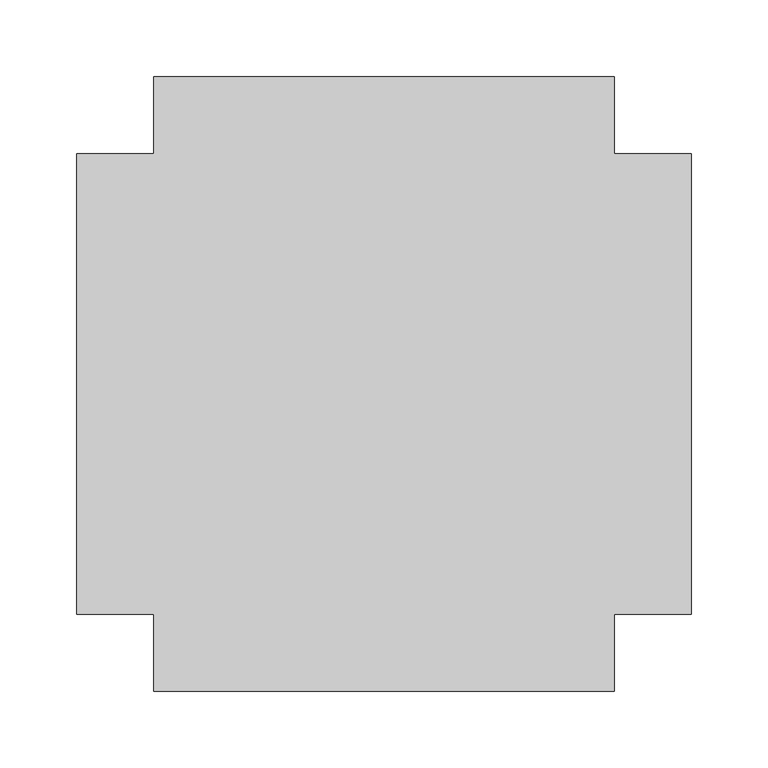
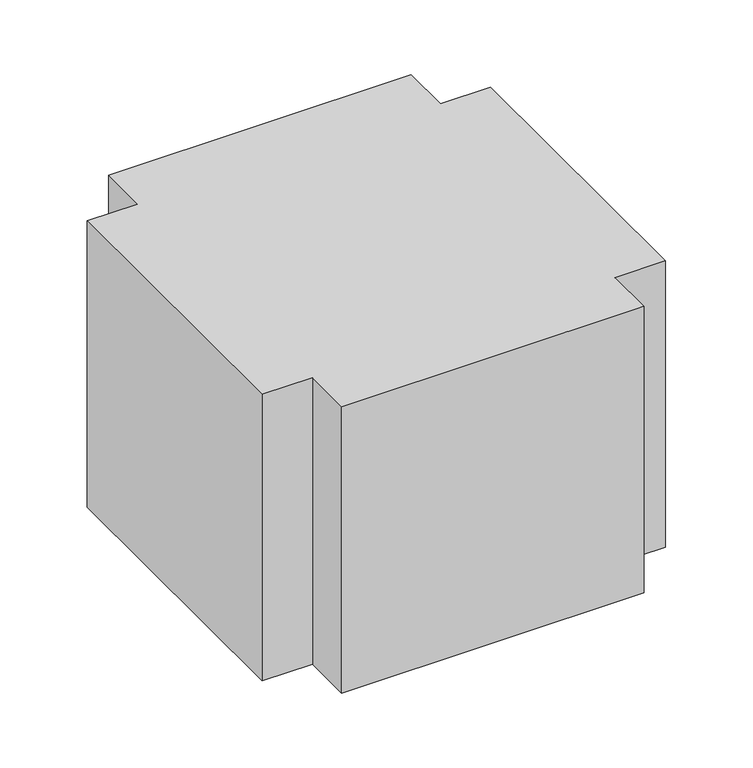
"""IFC4 building model written with IfcOpenShell, lengths in millimetres: duct fitting geometry, BL_КрестовинаВоздуховодов_Прямоугольная : BL_КрестовинаВоздуховодов_Прямоугольная."""

import ifcopenshell
import ifcopenshell.guid

model = None  # the IFC model being written
_history = None  # IfcOwnerHistory: only IFC2X3 demands one
_inside = {}  # id of a spatial element -> (the spatial element, [elements in it])
_under = {}  # id of a project, library or spatial element -> (it, [spatial elements below it])
_declared = {}  # id of a project -> (the project, [libraries it declares])
_typed = {}  # id of a type object -> (the type object, [elements of that type])
_made_of = {}  # id of a material, layer set ... -> (it, [elements and type objects made of it])


def new_model(schema):
    """Start an empty IFC model of exactly this schema.

    Asked for "IFC4X3", IfcOpenShell would pick the latest addendum, in which some entities
    have other attributes; the version numbers below select the first issue.
    IFC2X3 requires an IfcOwnerHistory on every rooted entity: one is made here for all.
    """
    global model, _history
    if schema == "IFC4X3":
        model = ifcopenshell.file(schema_version=(4, 3, 0, 0))
    else:
        model = ifcopenshell.file(schema=schema)
    _inside.clear()
    _under.clear()
    _declared.clear()
    _typed.clear()
    _made_of.clear()
    _history = None
    if model.schema == "IFC2X3":
        org = make("IfcOrganization", Name="unknown")
        user = make(
            "IfcPersonAndOrganization",
            ThePerson=make("IfcPerson", FamilyName="unknown"),
            TheOrganization=org,
        )
        app = make(
            "IfcApplication",
            ApplicationDeveloper=org,
            Version="unknown",
            ApplicationFullName="unknown",
            ApplicationIdentifier="unknown",
        )
        _history = make(
            "IfcOwnerHistory",
            OwningUser=user,
            OwningApplication=app,
            ChangeAction="ADDED",
            CreationDate=0,
        )
    return model


def make(cls, **values):
    """One entity of the class cls with the attributes given. An attribute that is None is left unset."""
    return model.create_entity(
        cls, **{name: value for name, value in values.items() if value is not None}
    )


def rooted(cls, **values):
    """An entity with a GlobalId (a new one), such as an element, a storey or a relation."""
    return make(cls, GlobalId=ifcopenshell.guid.new(), OwnerHistory=_history, **values)


def si_unit(unit_type, name, prefix=None):
    """IfcSIUnit, for example si_unit("LENGTHUNIT", "METRE", prefix="MILLI")."""
    return make("IfcSIUnit", UnitType=unit_type, Prefix=prefix, Name=name)


def assignment(units):
    """IfcUnitAssignment: the units of a project."""
    return None if units is None else make("IfcUnitAssignment", Units=units)


def point(xyz):
    """IfcCartesianPoint."""
    return None if xyz is None else make("IfcCartesianPoint", Coordinates=xyz)


def direction(xyz):
    """IfcDirection."""
    return None if xyz is None else make("IfcDirection", DirectionRatios=xyz)


def frame(location, z_axis=None, x_axis=None):
    """IfcAxis2Placement3D, a coordinate frame: its origin and axes. An axis left out is left unset."""
    return make(
        "IfcAxis2Placement3D",
        Location=point(location),
        Axis=direction(z_axis),
        RefDirection=direction(x_axis),
    )


def origin():
    """The frame at (0, 0, 0) with its axes left unset."""
    return frame((0.0, 0.0, 0.0))


def place(relative_to, where):
    """IfcLocalPlacement: puts the frame where relative to a parent placement (None: the world)."""
    return make(
        "IfcLocalPlacement", PlacementRelTo=relative_to, RelativePlacement=where
    )


def context(
    kind, dimensions, precision=None, world=None, true_north=None, identifier=None
):
    """IfcGeometricRepresentationContext, for example the 3D "Model" context."""
    return make(
        "IfcGeometricRepresentationContext",
        ContextIdentifier=identifier,
        ContextType=kind,
        CoordinateSpaceDimension=dimensions,
        Precision=precision,
        WorldCoordinateSystem=world,
        TrueNorth=true_north,
    )


def project(units=None, contexts=None):
    """IfcProject with its units and contexts."""
    return rooted(
        "IfcProject",
        Name="project",
        RepresentationContexts=contexts,
        UnitsInContext=assignment(units),
    )


def spatial(cls, under=None, at=None, **own):
    """A site, building, storey or space (cls), placed at a placement, below another one or the project."""
    s = rooted(cls, ObjectPlacement=at, **own)
    if under is not None:
        _under.setdefault(under.id(), (under, []))[1].append(s)
    return s


def polyline(points):
    """IfcPolyline through the points."""
    return make("IfcPolyline", Points=[point(p) for p in points])


def outline(outer, holes=None, kind="AREA"):
    """IfcArbitraryClosedProfileDef: a profile drawn as a closed curve; with holes, ...WithVoids."""
    if holes is None:
        return make("IfcArbitraryClosedProfileDef", ProfileType=kind, OuterCurve=outer)
    return make(
        "IfcArbitraryProfileDefWithVoids",
        ProfileType=kind,
        OuterCurve=outer,
        InnerCurves=holes,
    )


def extrude(swept, where, along, depth):
    """IfcExtrudedAreaSolid: the profile swept, set in the frame where, extruded along a direction by depth."""
    return make(
        "IfcExtrudedAreaSolid",
        SweptArea=swept,
        Position=where,
        ExtrudedDirection=direction(along),
        Depth=depth,
    )


def shape(context_of_items, identifier, shape_type, items):
    """IfcShapeRepresentation: the items that make up one representation, for example the "Body"."""
    return make(
        "IfcShapeRepresentation",
        ContextOfItems=context_of_items,
        RepresentationIdentifier=identifier,
        RepresentationType=shape_type,
        Items=items,
    )


def source(mapping_origin, context_of_items, identifier, shape_type, items):
    """IfcRepresentationMap: a shape defined once, which mapped items show again and again."""
    return make(
        "IfcRepresentationMap",
        MappingOrigin=mapping_origin,
        MappedRepresentation=shape(context_of_items, identifier, shape_type, items),
    )


def transform(
    local_origin,
    x_axis=None,
    y_axis=None,
    z_axis=None,
    scale=None,
    scale2=None,
    scale3=None,
    uniform=True,
):
    """IfcCartesianTransformationOperator3D, or its non-uniform kind. x_axis, y_axis, z_axis: its Axis1, 2, 3."""
    if uniform:
        return make(
            "IfcCartesianTransformationOperator3D",
            Axis1=direction(x_axis),
            Axis2=direction(y_axis),
            LocalOrigin=point(local_origin),
            Scale=scale,
            Axis3=direction(z_axis),
        )
    return make(
        "IfcCartesianTransformationOperator3DnonUniform",
        Axis1=direction(x_axis),
        Axis2=direction(y_axis),
        LocalOrigin=point(local_origin),
        Scale=scale,
        Axis3=direction(z_axis),
        Scale2=scale2,
        Scale3=scale3,
    )


def mapped(mapping_source, mapping_target):
    """IfcMappedItem: shows the shape of a source again, moved by a transform."""
    return make(
        "IfcMappedItem", MappingSource=mapping_source, MappingTarget=mapping_target
    )


def made_of(thing, what):
    """Note that an element or type object is made of a material, layer set ...; save() writes the relation."""
    if what is not None:
        _made_of.setdefault(what.id(), (what, []))[1].append(thing)
    return thing


def element(
    cls,
    number,
    at=None,
    inside=None,
    cuts=None,
    type_object=None,
    material=None,
    context=None,
    identifier="Body",
    shape_type=None,
    held_by="IfcProductDefinitionShape",
    body=None,
    shapes=None,
    **own,
):
    """One element of the class cls, such as IfcWall. Its Tag is "e" and its number.

    at: its placement. inside: the storey or other place that contains it. cuts: it is an
    opening in that element (IfcRelVoidsElement). A single representation is given by context,
    identifier, shape_type and body (its items); several are given by shapes. held_by: the class
    of the entity that holds the representations. save() writes the other relations.
    """
    e = rooted(cls, Tag="e%d" % number, ObjectPlacement=at, **own)
    if body is not None:
        shapes = [shape(context, identifier, shape_type, body)]
    if shapes is not None:
        e.Representation = make(held_by, Representations=shapes)
    if inside is not None:
        _inside.setdefault(inside.id(), (inside, []))[1].append(e)
    if cuts is not None:
        rooted(
            "IfcRelVoidsElement", RelatingBuildingElement=cuts, RelatedOpeningElement=e
        )
    if type_object is not None:
        _typed.setdefault(type_object.id(), (type_object, []))[1].append(e)
    return made_of(e, material)


def aggregate(whole, parts):
    """IfcRelAggregates: a whole, such as a stair, and the parts it consists of."""
    return rooted("IfcRelAggregates", RelatingObject=whole, RelatedObjects=parts)


def save(model, path):
    """Write the relations noted so far, then the file.

    IfcRelAggregates (storeys below a building ...), IfcRelContainedInSpatialStructure (elements
    in a storey), IfcRelDefinesByType, IfcRelAssociatesMaterial and IfcRelDeclares: one each for
    every whole, place, type object, material and project.
    """
    for whole, parts in _under.values():
        aggregate(whole, parts)
    for where, things in _inside.values():
        rooted(
            "IfcRelContainedInSpatialStructure",
            RelatedElements=things,
            RelatingStructure=where,
        )
    for kind, things in _typed.values():
        rooted("IfcRelDefinesByType", RelatedObjects=things, RelatingType=kind)
    for what, things in _made_of.values():
        rooted("IfcRelAssociatesMaterial", RelatedObjects=things, RelatingMaterial=what)
    for by, libraries in _declared.values():
        rooted("IfcRelDeclares", RelatingContext=by, RelatedDefinitions=libraries)
    model.write(path)


def duct_fitting_28c7dad8(model_context):
    return source(origin(), model_context, "Body", "SweptSolid", [
        extrude(outline(polyline([(-200.0, -150.0), (-200.0, 150.0), (-150.0, 150.0), (-150.0, 200.0), (150.0, 200.0), (150.0, 150.0), (200.0, 150.0), (200.0, -150.0), (150.0, -150.0), (150.0, -200.0), (-150.0, -200.0), (-150.0, -150.0), (-200.0, -150.0)])), frame((0.0, 0.0, -150.0), z_axis=(0.0, 0.0, 1.0), x_axis=(1.0, 0.0, 0.0)), (0.0, 0.0, 1.0), 300.0),
    ])


if __name__ == "__main__":
    model = new_model("IFC4")
    model_context = context("Model", 3, world=origin())
    ifc_project = project(units=[si_unit("LENGTHUNIT", "METRE", prefix="MILLI")], contexts=[model_context])
    site = spatial("IfcSite", under=ifc_project)
    building = spatial("IfcBuilding", under=site)
    placement = place(None, origin())
    duct_fitting_shape = duct_fitting_28c7dad8(model_context)
    element("IfcDuctFitting", 1, ObjectType="BL_КрестовинаВоздуховодов_Прямоугольная : BL_КрестовинаВоздуховодов_Прямоугольная", at=placement, inside=building, context=model_context, shape_type="MappedRepresentation", body=[
        mapped(duct_fitting_shape, transform((0.0, 0.0, 0.0), x_axis=(1.0, 0.0, 0.0), y_axis=(0.0, 1.0, 0.0), z_axis=(0.0, 0.0, 1.0))),
    ])
    save(model, "model.ifc")
